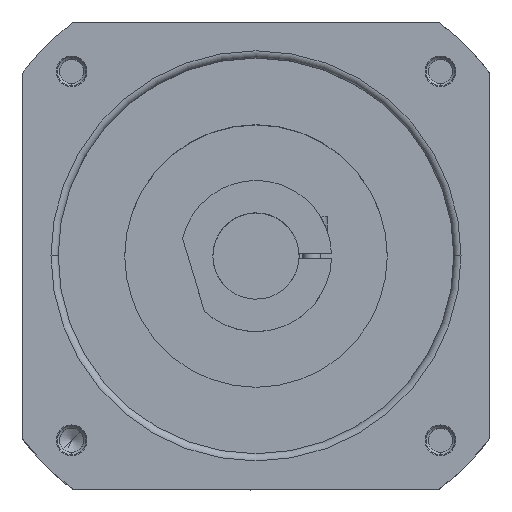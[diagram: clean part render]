
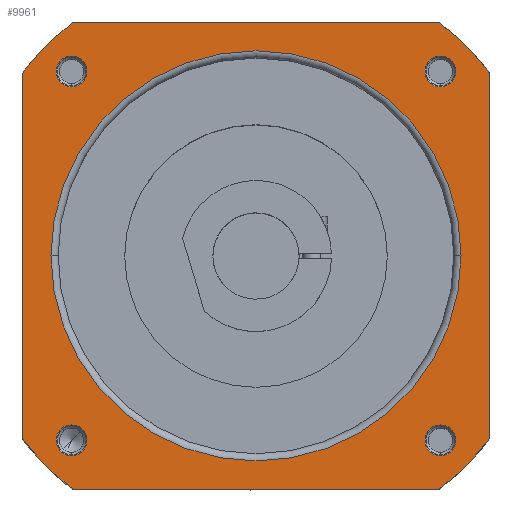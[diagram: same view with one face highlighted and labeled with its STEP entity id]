
A CAD part, top view. The second image highlights one B-rep face of the part: STEP entity #9961.
In plain terms, the highlighted planar face has unit normal (0, 0, 1) as drawn and (0, 1, 0) by its records, which use the part's own axes.
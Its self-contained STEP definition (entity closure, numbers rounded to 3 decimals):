
#8781=CARTESIAN_POINT('',(0.,66.,0.));
#8782=DIRECTION('',(0.,1.,0.));
#8783=DIRECTION('',(0.788,0.,-0.616));
#8784=AXIS2_PLACEMENT_3D('',#8781,#8782,#8783);
#8786=DIRECTION('',(0.,0.,-1.));
#8787=VECTOR('',#8786,101.612);
#8788=CARTESIAN_POINT('',(65.,66.,50.806));
#8789=LINE('',#8788,#8787);
#8790=CARTESIAN_POINT('',(0.,66.,0.));
#8791=DIRECTION('',(0.,1.,0.));
#8792=DIRECTION('',(0.616,0.,0.788));
#8793=AXIS2_PLACEMENT_3D('',#8790,#8791,#8792);
#8795=DIRECTION('',(1.,0.,0.));
#8796=VECTOR('',#8795,101.612);
#8797=CARTESIAN_POINT('',(-50.806,66.,65.));
#8798=LINE('',#8797,#8796);
#8799=CARTESIAN_POINT('',(0.,66.,0.));
#8800=DIRECTION('',(0.,1.,0.));
#8801=DIRECTION('',(-0.788,0.,0.616));
#8802=AXIS2_PLACEMENT_3D('',#8799,#8800,#8801);
#8804=DIRECTION('',(0.,0.,1.));
#8805=VECTOR('',#8804,101.612);
#8806=CARTESIAN_POINT('',(-65.,66.,-50.806));
#8807=LINE('',#8806,#8805);
#8808=CARTESIAN_POINT('',(0.,66.,0.));
#8809=DIRECTION('',(0.,1.,0.));
#8810=DIRECTION('',(-0.616,0.,-0.788));
#8811=AXIS2_PLACEMENT_3D('',#8808,#8809,#8810);
#8813=DIRECTION('',(-1.,0.,0.));
#8814=VECTOR('',#8813,101.612);
#8815=CARTESIAN_POINT('',(50.806,66.,-65.));
#8816=LINE('',#8815,#8814);
#8817=CARTESIAN_POINT('',(-51.265,66.,51.265));
#8818=DIRECTION('',(0.,-1.,0.));
#8819=DIRECTION('',(1.,0.,0.));
#8820=AXIS2_PLACEMENT_3D('',#8817,#8818,#8819);
#8827=CARTESIAN_POINT('',(-51.265,66.,51.265));
#8828=DIRECTION('',(0.,-1.,0.));
#8829=DIRECTION('',(-1.,0.,0.));
#8830=AXIS2_PLACEMENT_3D('',#8827,#8828,#8829);
#8863=CARTESIAN_POINT('',(-51.265,66.,-51.265));
#8864=DIRECTION('',(0.,-1.,0.));
#8865=DIRECTION('',(1.,0.,0.));
#8866=AXIS2_PLACEMENT_3D('',#8863,#8864,#8865);
#8873=CARTESIAN_POINT('',(-51.265,66.,-51.265));
#8874=DIRECTION('',(0.,-1.,0.));
#8875=DIRECTION('',(-1.,0.,0.));
#8876=AXIS2_PLACEMENT_3D('',#8873,#8874,#8875);
#8909=CARTESIAN_POINT('',(51.265,66.,-51.265));
#8910=DIRECTION('',(0.,-1.,0.));
#8911=DIRECTION('',(1.,0.,0.));
#8912=AXIS2_PLACEMENT_3D('',#8909,#8910,#8911);
#8919=CARTESIAN_POINT('',(51.265,66.,-51.265));
#8920=DIRECTION('',(0.,-1.,0.));
#8921=DIRECTION('',(-1.,0.,0.));
#8922=AXIS2_PLACEMENT_3D('',#8919,#8920,#8921);
#9280=CARTESIAN_POINT('',(51.265,66.,51.265));
#9281=DIRECTION('',(0.,-1.,0.));
#9282=DIRECTION('',(1.,0.,0.));
#9283=AXIS2_PLACEMENT_3D('',#9280,#9281,#9282);
#9290=CARTESIAN_POINT('',(51.265,66.,51.265));
#9291=DIRECTION('',(0.,-1.,0.));
#9292=DIRECTION('',(-1.,0.,0.));
#9293=AXIS2_PLACEMENT_3D('',#9290,#9291,#9292);
#9344=CARTESIAN_POINT('',(0.,66.,0.));
#9345=DIRECTION('',(0.,-1.,0.));
#9346=DIRECTION('',(0.,0.,1.));
#9347=AXIS2_PLACEMENT_3D('',#9344,#9345,#9346);
#9359=CARTESIAN_POINT('',(0.,66.,0.));
#9360=DIRECTION('',(0.,-1.,0.));
#9361=DIRECTION('',(0.,0.,-1.));
#9362=AXIS2_PLACEMENT_3D('',#9359,#9360,#9361);
#9609=CARTESIAN_POINT('',(-65.,66.,-50.806));
#9611=VERTEX_POINT('',#9609);
#9613=CARTESIAN_POINT('',(-65.,66.,50.806));
#9615=VERTEX_POINT('',#9613);
#9617=CARTESIAN_POINT('',(-50.806,66.,65.));
#9619=VERTEX_POINT('',#9617);
#9621=CARTESIAN_POINT('',(50.806,66.,65.));
#9623=VERTEX_POINT('',#9621);
#9625=CARTESIAN_POINT('',(65.,66.,-50.806));
#9627=VERTEX_POINT('',#9625);
#9629=CARTESIAN_POINT('',(65.,66.,50.806));
#9631=VERTEX_POINT('',#9629);
#9633=CARTESIAN_POINT('',(50.806,66.,-65.));
#9635=VERTEX_POINT('',#9633);
#9637=CARTESIAN_POINT('',(-50.806,66.,-65.));
#9639=VERTEX_POINT('',#9637);
#9670=CARTESIAN_POINT('',(55.54,66.,51.265));
#9671=CARTESIAN_POINT('',(46.99,66.,51.265));
#9672=VERTEX_POINT('',#9670);
#9673=VERTEX_POINT('',#9671);
#9678=CARTESIAN_POINT('',(-46.99,66.,51.265));
#9679=CARTESIAN_POINT('',(-55.54,66.,51.265));
#9680=VERTEX_POINT('',#9678);
#9681=VERTEX_POINT('',#9679);
#9686=CARTESIAN_POINT('',(-46.99,66.,-51.265));
#9687=CARTESIAN_POINT('',(-55.54,66.,-51.265));
#9688=VERTEX_POINT('',#9686);
#9689=VERTEX_POINT('',#9687);
#9694=CARTESIAN_POINT('',(55.54,66.,-51.265));
#9695=CARTESIAN_POINT('',(46.99,66.,-51.265));
#9696=VERTEX_POINT('',#9694);
#9697=VERTEX_POINT('',#9695);
#9734=CARTESIAN_POINT('',(0.,66.,57.));
#9735=CARTESIAN_POINT('',(0.,66.,-57.));
#9736=VERTEX_POINT('',#9734);
#9737=VERTEX_POINT('',#9735);
#9911=CARTESIAN_POINT('',(0.,66.,0.));
#9912=DIRECTION('',(0.,-1.,0.));
#9913=DIRECTION('',(-1.,0.,0.));
#9914=AXIS2_PLACEMENT_3D('',#9911,#9912,#9913);
#9915=PLANE('',#9914);
#9916=ORIENTED_EDGE('',*,*,#9882,.F.);
#9918=ORIENTED_EDGE('',*,*,#9917,.F.);
#9920=ORIENTED_EDGE('',*,*,#9919,.F.);
#9922=ORIENTED_EDGE('',*,*,#9921,.F.);
#9924=ORIENTED_EDGE('',*,*,#9923,.F.);
#9925=ORIENTED_EDGE('',*,*,#9896,.F.);
#9926=ORIENTED_EDGE('',*,*,#9870,.F.);
#9928=ORIENTED_EDGE('',*,*,#9927,.F.);
#9929=EDGE_LOOP('',(#9916,#9918,#9920,#9922,#9924,#9925,#9926,#9928));
#9930=FACE_OUTER_BOUND('',#9929,.F.);
#9932=ORIENTED_EDGE('',*,*,#9931,.F.);
#9934=ORIENTED_EDGE('',*,*,#9933,.F.);
#9935=EDGE_LOOP('',(#9932,#9934));
#9936=FACE_BOUND('',#9935,.F.);
#9938=ORIENTED_EDGE('',*,*,#9937,.F.);
#9940=ORIENTED_EDGE('',*,*,#9939,.F.);
#9941=EDGE_LOOP('',(#9938,#9940));
#9942=FACE_BOUND('',#9941,.F.);
#9944=ORIENTED_EDGE('',*,*,#9943,.F.);
#9946=ORIENTED_EDGE('',*,*,#9945,.F.);
#9947=EDGE_LOOP('',(#9944,#9946));
#9948=FACE_BOUND('',#9947,.F.);
#9950=ORIENTED_EDGE('',*,*,#9949,.F.);
#9952=ORIENTED_EDGE('',*,*,#9951,.F.);
#9953=EDGE_LOOP('',(#9950,#9952));
#9954=FACE_BOUND('',#9953,.F.);
#9956=ORIENTED_EDGE('',*,*,#9955,.F.);
#9958=ORIENTED_EDGE('',*,*,#9957,.F.);
#9959=EDGE_LOOP('',(#9956,#9958));
#9960=FACE_BOUND('',#9959,.F.);
#9961=ADVANCED_FACE('',(#9930,#9936,#9942,#9948,#9954,#9960),#9915,.F.);
#8785=CIRCLE('',#8784,82.5);
#8794=CIRCLE('',#8793,82.5);
#8803=CIRCLE('',#8802,82.5);
#8812=CIRCLE('',#8811,82.5);
#8821=CIRCLE('',#8820,4.275);
#8831=CIRCLE('',#8830,4.275);
#8867=CIRCLE('',#8866,4.275);
#8877=CIRCLE('',#8876,4.275);
#8913=CIRCLE('',#8912,4.275);
#8923=CIRCLE('',#8922,4.275);
#9284=CIRCLE('',#9283,4.275);
#9294=CIRCLE('',#9293,4.275);
#9348=CIRCLE('',#9347,57.);
#9363=CIRCLE('',#9362,57.);
#9870=EDGE_CURVE('',#9639,#9611,#8812,.T.);
#9882=EDGE_CURVE('',#9627,#9635,#8785,.T.);
#9896=EDGE_CURVE('',#9611,#9615,#8807,.T.);
#9917=EDGE_CURVE('',#9631,#9627,#8789,.T.);
#9919=EDGE_CURVE('',#9623,#9631,#8794,.T.);
#9921=EDGE_CURVE('',#9619,#9623,#8798,.T.);
#9923=EDGE_CURVE('',#9615,#9619,#8803,.T.);
#9927=EDGE_CURVE('',#9635,#9639,#8816,.T.);
#9931=EDGE_CURVE('',#9688,#9689,#8867,.T.);
#9933=EDGE_CURVE('',#9689,#9688,#8877,.T.);
#9937=EDGE_CURVE('',#9696,#9697,#8913,.T.);
#9939=EDGE_CURVE('',#9697,#9696,#8923,.T.);
#9943=EDGE_CURVE('',#9680,#9681,#8821,.T.);
#9945=EDGE_CURVE('',#9681,#9680,#8831,.T.);
#9949=EDGE_CURVE('',#9672,#9673,#9284,.T.);
#9951=EDGE_CURVE('',#9673,#9672,#9294,.T.);
#9955=EDGE_CURVE('',#9736,#9737,#9348,.T.);
#9957=EDGE_CURVE('',#9737,#9736,#9363,.T.);
